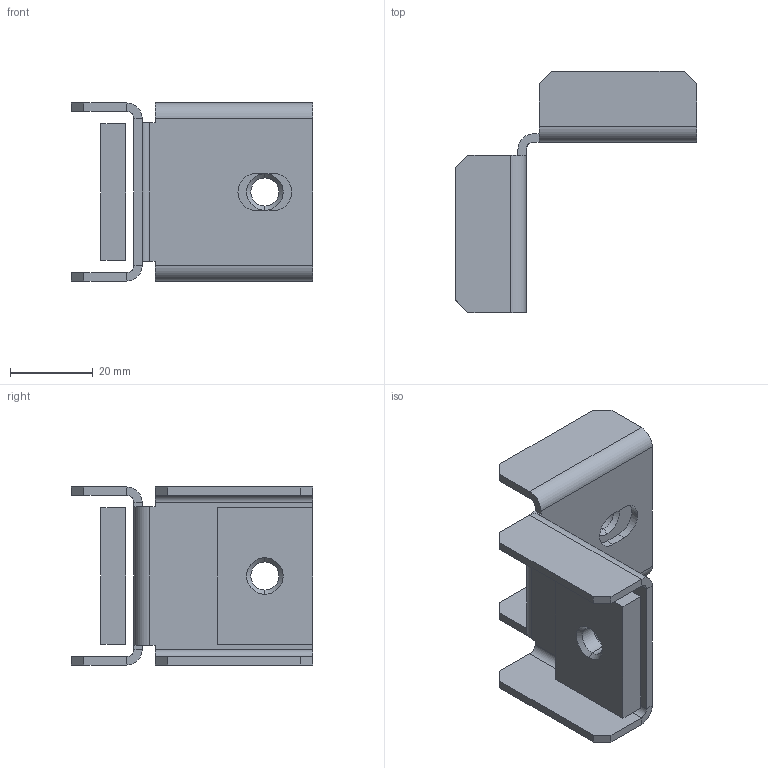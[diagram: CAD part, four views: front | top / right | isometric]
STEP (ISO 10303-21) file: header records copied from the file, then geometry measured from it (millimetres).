
FILE_DESCRIPTION (( 'STEP AP214' ), '1' );
FILE_NAME ('IK 01 C.STEP', '2022-09-07T12:33:41', ( '' ), ( '' ), 'SwSTEP 2.0', 'SolidWorks 2018', '' );
FILE_SCHEMA (( 'AUTOMOTIVE_DESIGN' ));
Length unit declared in the file: millimetre
Products named in the file (3): Ãàéêà õîäîâàÿ Ì8; IK 01 C ﾊ煇鳫_IK 01 C 癌ｮｭ鞣･ｩｭ; IK 01 C
Assembly tree (3 placements, depth 2):
  IK 01 C
    IK 01 C ﾊ煇鳫_IK 01 C 癌ｮｭ鞣･ｩｭ
    Ãàéêà õîäîâàÿ Ì8  x2
Bounding box: 58.21 x 58.21 x 43 mm (x, y, z)
Volume: 19379.8 mm3; surface area: 16082.4 mm2
Topology: 3 solids, 3 shells, 92 faces, 218 edges, 132 vertices
Faces by surface type: plane 64, cylinder 20, cone 8
Entity records: 2420 total; most frequent: DIRECTION 404, CARTESIAN_POINT 394, ORIENTED_EDGE 384, EDGE_CURVE 192, LINE 152, VECTOR 152, AXIS2_PLACEMENT_3D 126, VERTEX_POINT 116
